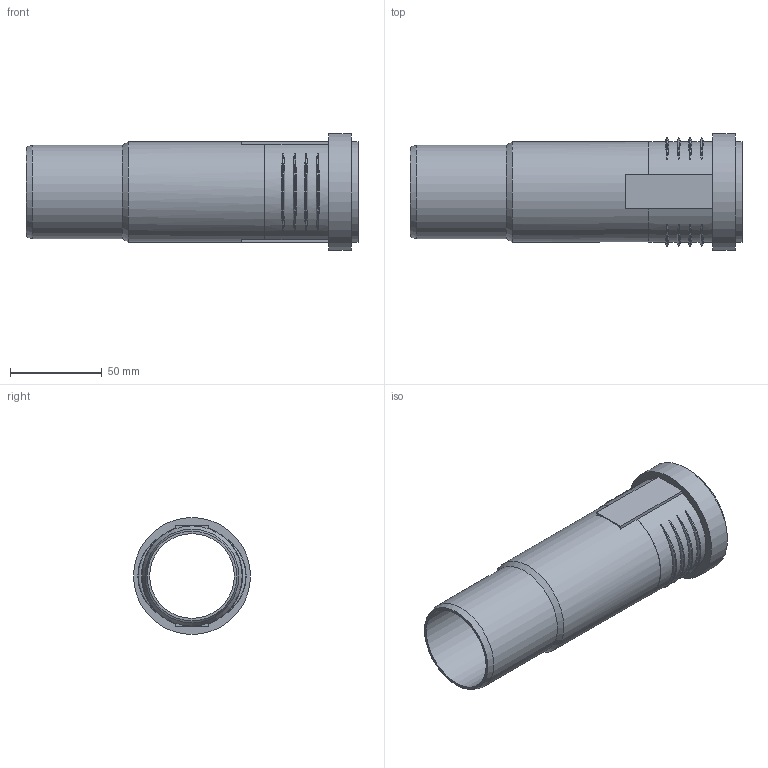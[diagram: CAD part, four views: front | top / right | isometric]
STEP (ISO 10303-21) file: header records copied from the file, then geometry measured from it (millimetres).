
FILE_DESCRIPTION(/* description */ (''),/* implementation_level */ '2;1');
FILE_NAME(/* name */ 'Z:\Geberit\Export\NewStep\390218.stp',/* time_stamp */ '2014-04-02T08:09:54+02:00',/* author */ ('ML'),/* organization */ (''),/* preprocessor_version */ 'ST-DEVELOPER v15.2',/* originating_system */ 'Autodesk Inventor 2014',/* authorisation */ '');
FILE_SCHEMA (('AUTOMOTIVE_DESIGN { 1 0 10303 214 3 1 1 }'));
Length unit declared in the file: millimetre
Products named in the file (1): 390218
Bounding box: 180.9 x 63.7 x 63.7 mm (x, y, z)
Volume: 63870.8 mm3; surface area: 64213.1 mm2
Topology: 1 solids, 1 shells, 53 faces, 128 edges, 89 vertices
Faces by surface type: torus 24, plane 16, cylinder 10, cone 3
Full cylindrical faces by diameter (mm): 46.15 x1, 51 x3, 54.6 x1, 55 x1, 60.1 x1, 63.7 x1
Entity records: 2144 total; most frequent: CARTESIAN_POINT 914, ORIENTED_EDGE 232, DIRECTION 216, EDGE_CURVE 116, AXIS2_PLACEMENT_3D 94, VERTEX_POINT 88, EDGE_LOOP 78, STYLED_ITEM 54
